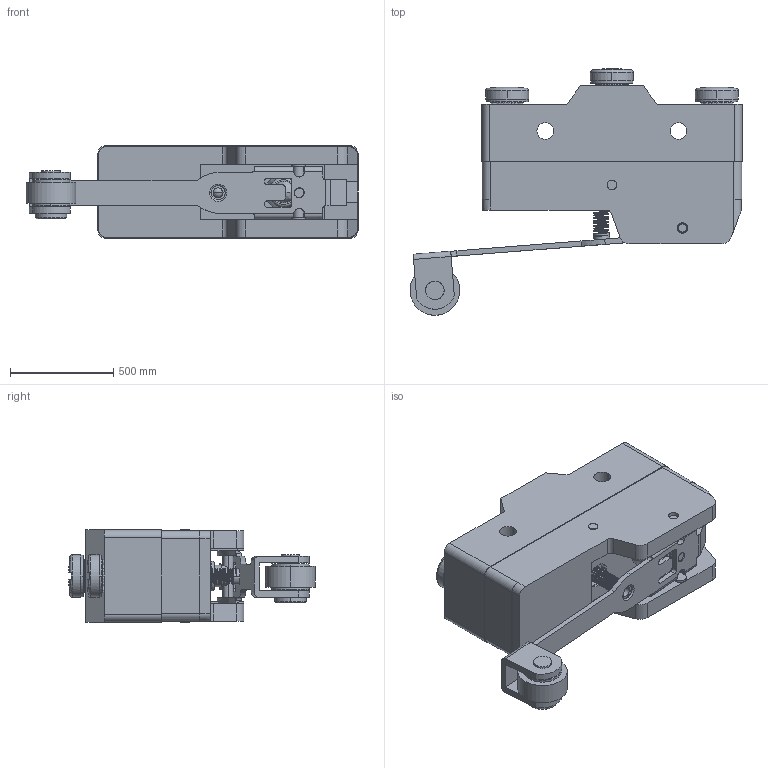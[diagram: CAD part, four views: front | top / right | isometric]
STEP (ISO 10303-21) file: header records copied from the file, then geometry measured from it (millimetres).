
FILE_DESCRIPTION((''),'2;1');
FILE_NAME('ASM0002_ASM','2016-08-17T',('ABS'),(''),'PRO/ENGINEER BY PARAMETRIC TECHNOLOGY CORPORATION, 2012360','PRO/ENGINEER BY PARAMETRIC TECHNOLOGY CORPORATION, 2012360','');
FILE_SCHEMA(('CONFIG_CONTROL_DESIGN'));
Products named in the file (1): ASM0002_ASM
Bounding box: 1608.13 x 1194.39 x 447.04 mm (x, y, z)
Volume: 255090517 mm3; surface area: 8025133.4 mm2
Topology: 1 solids, 14 shells, 1088 faces, 3111 edges, 2052 vertices
Faces by surface type: cylinder 579, plane 344, bspline 74, torus 40, cone 30, sphere 21
Entity records: 48179 total; most frequent: CARTESIAN_POINT 20489, ORIENTED_EDGE 6192, DIRECTION 5377, EDGE_CURVE 3096, VERTEX_POINT 2052, AXIS2_PLACEMENT_3D 2042, VECTOR 1293, LINE 1293
